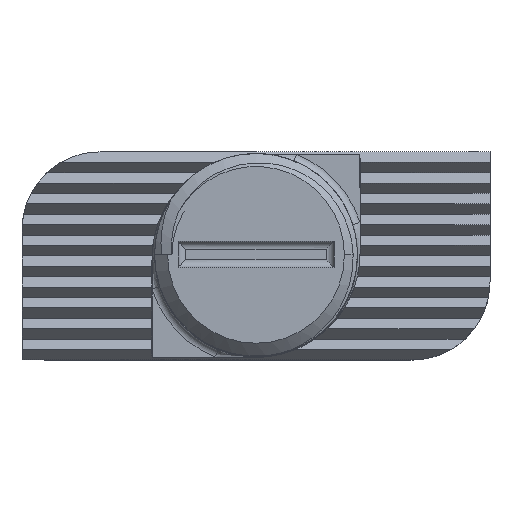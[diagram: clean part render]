
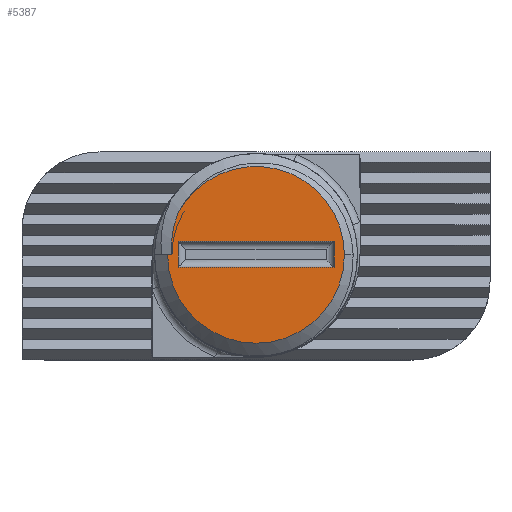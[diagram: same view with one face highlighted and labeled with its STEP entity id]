
A CAD part, top view. The second image highlights one B-rep face of the part: STEP entity #5387.
In plain terms, the highlighted planar face has unit normal (0, 0, 1).
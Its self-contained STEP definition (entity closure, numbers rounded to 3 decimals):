
#110 = LINE ( 'NONE', #361, #5426 ) ;
#120 = CARTESIAN_POINT ( 'NONE',  ( 3., 0.164, 27.5 ) ) ;
#361 = CARTESIAN_POINT ( 'NONE',  ( -3., 0.164, 27.5 ) ) ;
#477 = DIRECTION ( 'NONE',  ( 1., 0., 0. ) ) ;
#496 = AXIS2_PLACEMENT_3D ( 'NONE', #2574, #2996, #477 ) ;
#538 = EDGE_CURVE ( 'NONE', #5271, #1863, #1265, .T. ) ;
#549 = CARTESIAN_POINT ( 'NONE',  ( -3., 1.164, 27.5 ) ) ;
#660 = ORIENTED_EDGE ( 'NONE', *, *, #3718, .T. ) ;
#742 = CARTESIAN_POINT ( 'NONE',  ( -3.26, 0.916, 27.5 ) ) ;
#762 = VECTOR ( 'NONE', #3499, 1000. ) ;
#806 = EDGE_CURVE ( 'NONE', #1124, #1863, #3212, .T. ) ;
#813 = CARTESIAN_POINT ( 'NONE',  ( 3.4, 0.647, 27.5 ) ) ;
#933 = CARTESIAN_POINT ( 'NONE',  ( -3., 1.164, 27.5 ) ) ;
#1071 = ORIENTED_EDGE ( 'NONE', *, *, #2765, .F. ) ;
#1073 = CARTESIAN_POINT ( 'NONE',  ( 3., 1.164, 27.5 ) ) ;
#1075 = LINE ( 'NONE', #2495, #1944 ) ;
#1124 = VERTEX_POINT ( 'NONE', #3977 ) ;
#1138 = AXIS2_PLACEMENT_3D ( 'NONE', #4697, #2157, #5100 ) ;
#1151 = LINE ( 'NONE', #933, #3273 ) ;
#1265 = CIRCLE ( 'NONE', #1138, 3.4 ) ;
#1410 = DIRECTION ( 'NONE',  ( 0., -1., 0. ) ) ;
#1582 = DIRECTION ( 'NONE',  ( 0., 0., 1. ) ) ;
#1709 = ORIENTED_EDGE ( 'NONE', *, *, #3997, .F. ) ;
#1764 = LINE ( 'NONE', #3263, #3735 ) ;
#1778 = EDGE_CURVE ( 'NONE', #1124, #5222, #1764, .T. ) ;
#1863 = VERTEX_POINT ( 'NONE', #4639 ) ;
#1944 = VECTOR ( 'NONE', #3347, 1000. ) ;
#1965 = ORIENTED_EDGE ( 'NONE', *, *, #2721, .F. ) ;
#2022 = CARTESIAN_POINT ( 'NONE',  ( -3.181, 1.713, 27.5 ) ) ;
#2157 = DIRECTION ( 'NONE',  ( 0., 0., 1. ) ) ;
#2351 = ORIENTED_EDGE ( 'NONE', *, *, #4685, .F. ) ;
#2450 = CARTESIAN_POINT ( 'NONE',  ( -3.012, 2.224, 27.5 ) ) ;
#2495 = CARTESIAN_POINT ( 'NONE',  ( 3., 1.164, 27.5 ) ) ;
#2574 = CARTESIAN_POINT ( 'NONE',  ( 0., 0.647, 27.5 ) ) ;
#2643 = CARTESIAN_POINT ( 'NONE',  ( -3., 0.164, 27.5 ) ) ;
#2669 = EDGE_LOOP ( 'NONE', ( #4549, #660, #4447, #4758 ) ) ;
#2693 = CIRCLE ( 'NONE', #3842, 3.4 ) ;
#2721 = EDGE_CURVE ( 'NONE', #3096, #4646, #110, .T. ) ;
#2765 = EDGE_CURVE ( 'NONE', #4646, #3274, #1075, .T. ) ;
#2878 = DIRECTION ( 'NONE',  ( 1., 0., 0. ) ) ;
#2883 = LINE ( 'NONE', #549, #762 ) ;
#2996 = DIRECTION ( 'NONE',  ( 0., 0., 1. ) ) ;
#3096 = VERTEX_POINT ( 'NONE', #2643 ) ;
#3212 = B_SPLINE_CURVE_WITH_KNOTS ( 'NONE', 3,
 ( #4556, #742, #4119, #2022, #4967, #2450 ),
 .UNSPECIFIED., .F., .F.,
 ( 4, 2, 4 ),
 ( 0., 0.001, 0.002 ),
 .UNSPECIFIED. ) ;
#3263 = CARTESIAN_POINT ( 'NONE',  ( 0., 0.647, 27.5 ) ) ;
#3273 = VECTOR ( 'NONE', #1410, 1000. ) ;
#3274 = VERTEX_POINT ( 'NONE', #1073 ) ;
#3347 = DIRECTION ( 'NONE',  ( 0., 1., 0. ) ) ;
#3499 = DIRECTION ( 'NONE',  ( -1., 0., 0. ) ) ;
#3718 = EDGE_CURVE ( 'NONE', #5222, #5271, #2693, .T. ) ;
#3735 = VECTOR ( 'NONE', #4600, 1000. ) ;
#3842 = AXIS2_PLACEMENT_3D ( 'NONE', #4100, #1582, #4536 ) ;
#3977 = CARTESIAN_POINT ( 'NONE',  ( -3.233, 0.647, 27.5 ) ) ;
#3997 = EDGE_CURVE ( 'NONE', #3274, #4452, #2883, .T. ) ;
#4100 = CARTESIAN_POINT ( 'NONE',  ( 0., 0.647, 27.5 ) ) ;
#4119 = CARTESIAN_POINT ( 'NONE',  ( -3.255, 1.183, 27.5 ) ) ;
#4294 = EDGE_LOOP ( 'NONE', ( #2351, #1709, #1071, #1965 ) ) ;
#4402 = FACE_OUTER_BOUND ( 'NONE', #2669, .T. ) ;
#4447 = ORIENTED_EDGE ( 'NONE', *, *, #538, .T. ) ;
#4452 = VERTEX_POINT ( 'NONE', #4620 ) ;
#4536 = DIRECTION ( 'NONE',  ( 1., 0., 0. ) ) ;
#4549 = ORIENTED_EDGE ( 'NONE', *, *, #1778, .T. ) ;
#4556 = CARTESIAN_POINT ( 'NONE',  ( -3.233, 0.647, 27.5 ) ) ;
#4600 = DIRECTION ( 'NONE',  ( -1., 0., 0. ) ) ;
#4620 = CARTESIAN_POINT ( 'NONE',  ( -3., 1.164, 27.5 ) ) ;
#4639 = CARTESIAN_POINT ( 'NONE',  ( -3.012, 2.224, 27.5 ) ) ;
#4646 = VERTEX_POINT ( 'NONE', #120 ) ;
#4685 = EDGE_CURVE ( 'NONE', #4452, #3096, #1151, .T. ) ;
#4697 = CARTESIAN_POINT ( 'NONE',  ( 0., 0.647, 27.5 ) ) ;
#4758 = ORIENTED_EDGE ( 'NONE', *, *, #806, .F. ) ;
#4960 = CARTESIAN_POINT ( 'NONE',  ( -3.4, 0.647, 27.5 ) ) ;
#4967 = CARTESIAN_POINT ( 'NONE',  ( -3.111, 1.977, 27.5 ) ) ;
#5090 = PLANE ( 'NONE',  #496 ) ;
#5100 = DIRECTION ( 'NONE',  ( 1., 0., 0. ) ) ;
#5222 = VERTEX_POINT ( 'NONE', #4960 ) ;
#5233 = FACE_BOUND ( 'NONE', #4294, .T. ) ;
#5271 = VERTEX_POINT ( 'NONE', #813 ) ;
#5387 = ADVANCED_FACE ( 'NONE', ( #5233, #4402 ), #5090, .T. ) ;
#5426 = VECTOR ( 'NONE', #2878, 1000. ) ;
